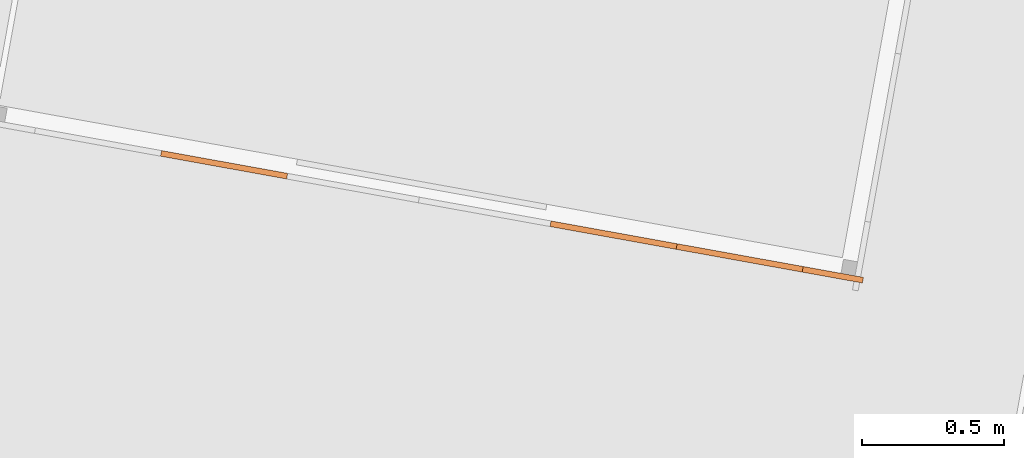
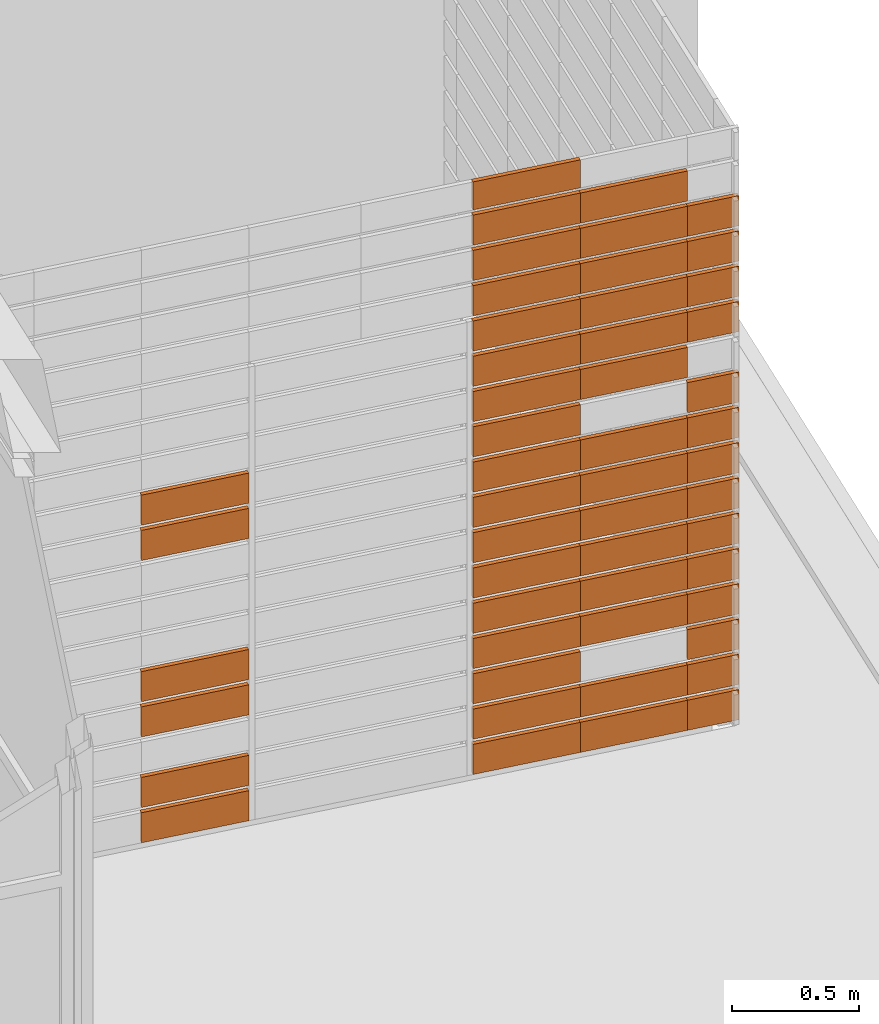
# One storey, part 29 of 52: 51 proxies, 1 element without a shape of its own.
"""IFC2X3 building model written with IfcOpenShell, lengths in metres."""

from ifc_helpers import new_model, entity, si_unit, converted_unit, derived_unit, money_unit, direction, frame, origin_with_axes, place, context, subcontext, project, spatial, polyline, outline, extrude, material, type_object, element, aggregate, save


model = new_model("IFC2X3")

# Units and contexts
model_context = context("Model", 3, precision=1e-05, world=origin_with_axes(), true_north=direction((0.0, 1.0)))
body_context = subcontext(model_context, "Body", "Model", "MODEL_VIEW")
ifc_project = project(units=[si_unit("LENGTHUNIT", "METRE"), si_unit("AREAUNIT", "SQUARE_METRE"), si_unit("VOLUMEUNIT", "CUBIC_METRE"), converted_unit("PLANEANGLEUNIT", "DEGREE", entity("IfcPlaneAngleMeasure", 0.0174532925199), si_unit("PLANEANGLEUNIT", "RADIAN"), dimensions=[0, 0, 0, 0, 0, 0, 0]), money_unit("CHF"), converted_unit("TIMEUNIT", "Year", entity("IfcTimeMeasure", 31556926.0), si_unit("TIMEUNIT", "SECOND"), dimensions=[0, 0, 1, 0, 0, 0, 0]), si_unit("MASSUNIT", "GRAM", prefix="KILO"), si_unit("THERMODYNAMICTEMPERATUREUNIT", "DEGREE_CELSIUS"), si_unit("LUMINOUSINTENSITYUNIT", "LUMEN"), si_unit("ENERGYUNIT", "JOULE", prefix="MEGA"), derived_unit("THERMALCONDUCTANCEUNIT", [(si_unit("POWERUNIT", "WATT"), 1), (si_unit("LENGTHUNIT", "METRE"), -1), (si_unit("THERMODYNAMICTEMPERATUREUNIT", "KELVIN"), -1)]), derived_unit("SPECIFICHEATCAPACITYUNIT", [(si_unit("ENERGYUNIT", "JOULE"), 1), (si_unit("MASSUNIT", "GRAM", prefix="KILO"), -1), (si_unit("THERMODYNAMICTEMPERATUREUNIT", "KELVIN"), -1)]), derived_unit("MASSDENSITYUNIT", [(si_unit("MASSUNIT", "GRAM", prefix="KILO"), 1), (si_unit("VOLUMEUNIT", "CUBIC_METRE"), -1)])], contexts=[model_context])

# Site, building, storey
site_placement = place(None, frame((0.0, 0.0, 0.0), z_axis=(0.0, 0.0, 1.0), x_axis=(-0.177771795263, -0.984071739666, 0.0)))
site = spatial("IfcSite", under=ifc_project, at=site_placement, Name="Site", CompositionType="ELEMENT")
building_placement = place(site_placement, origin_with_axes())
building = spatial("IfcBuilding", under=site, at=building_placement, Name="Bâtiment", CompositionType="ELEMENT")
storey_placement = place(building_placement, frame((0.0, 0.0, 3.2), z_axis=(0.0, 0.0, 1.0), x_axis=(1.0, 0.0, 0.0)))
storey = spatial("IfcBuildingStorey", under=building, at=storey_placement, Name="R+1", CompositionType="ELEMENT", Elevation=3.2)

# Curtain wall, proxies
curtain_wall_type = type_object("IfcCurtainWallType", Name="Type de mur-rideau", PredefinedType="NOTDEFINED")
curtain_wall_placement = place(storey_placement, frame((0.0, 0.0, -3.2), z_axis=(0.0, 0.0, 1.0), x_axis=(1.0, 0.0, 0.0)))
curtain_wall = element("IfcCurtainWall", 1, at=curtain_wall_placement, inside=storey, type_object=curtain_wall_type, Name="pare-vue CTA")
ifc_material = material(Name="Matériau de construction IFC")
building_element_proxy_type_1 = type_object("IfcBuildingElementProxyType", Name="Panneau principal 450 x 170 x 20", PredefinedType="NOTDEFINED")
proxy_1_placement = place(curtain_wall_placement, frame((141.359841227, -150.042034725, 5.3375), z_axis=(0.0, 0.0, 1.0), x_axis=(-4.03765126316e-09, 1.0, 0.0)))
proxy_1 = element("IfcBuildingElementProxy", 2, at=proxy_1_placement, type_object=building_element_proxy_type_1, material=ifc_material, Name="Panel-Main-208", context=body_context, shape_type="SweptSolid", body=[
    extrude(outline(polyline([(-0.225, -0.0725), (0.225, -0.0725), (0.225, 0.0725000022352), (-0.225, 0.0725000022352), (-0.225, -0.0725)])), frame((0.0, -0.00999999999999, 0.0), z_axis=(0.0, 1.0, 0.0), x_axis=(1.0, 0.0, 0.0)), (0.0, 0.0, 1.0), 0.02),
])
proxy_2_placement = place(curtain_wall_placement, frame((141.359841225, -149.592034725, 5.1675), z_axis=(0.0, 0.0, 1.0), x_axis=(-4.03758798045e-09, 1.0, 0.0)))
proxy_2 = element("IfcBuildingElementProxy", 3, at=proxy_2_placement, type_object=building_element_proxy_type_1, material=ifc_material, Name="Panel-Main-208", context=body_context, shape_type="SweptSolid", body=[
    extrude(outline(polyline([(-0.225, -0.0725), (0.225, -0.0725), (0.225, 0.0725000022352), (-0.225, 0.0725000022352), (-0.225, -0.0725)])), frame((0.0, -0.00999999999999, 0.0), z_axis=(0.0, 1.0, 0.0), x_axis=(1.0, 0.0, 0.0)), (0.0, 0.0, 1.0), 0.02),
])
proxy_3_placement = place(curtain_wall_placement, frame((141.359841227, -150.042034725, 4.6575), z_axis=(0.0, 0.0, 1.0), x_axis=(-4.03765126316e-09, 1.0, 0.0)))
proxy_3 = element("IfcBuildingElementProxy", 4, at=proxy_3_placement, type_object=building_element_proxy_type_1, material=ifc_material, Name="Panel-Main-208", context=body_context, shape_type="SweptSolid", body=[
    extrude(outline(polyline([(-0.225, -0.0725), (0.225, -0.0725), (0.225, 0.0725000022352), (-0.225, 0.0725000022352), (-0.225, -0.0725)])), frame((0.0, -0.00999999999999, 0.0), z_axis=(0.0, 1.0, 0.0), x_axis=(1.0, 0.0, 0.0)), (0.0, 0.0, 1.0), 0.02),
])
proxy_4_placement = place(curtain_wall_placement, frame((141.359841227, -150.042034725, 5.5075), z_axis=(0.0, 0.0, 1.0), x_axis=(-4.03765126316e-09, 1.0, 0.0)))
proxy_4 = element("IfcBuildingElementProxy", 5, at=proxy_4_placement, type_object=building_element_proxy_type_1, material=ifc_material, Name="Panel-Main-208", context=body_context, shape_type="SweptSolid", body=[
    extrude(outline(polyline([(-0.225, -0.0725), (0.225, -0.0725), (0.225, 0.0725000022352), (-0.225, 0.0725000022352), (-0.225, -0.0725)])), frame((0.0, -0.00999999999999, 0.0), z_axis=(0.0, 1.0, 0.0), x_axis=(1.0, 0.0, 0.0)), (0.0, 0.0, 1.0), 0.02),
])
proxy_5_placement = place(curtain_wall_placement, frame((141.359841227, -150.042034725, 4.9975), z_axis=(0.0, 0.0, 1.0), x_axis=(-4.03765126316e-09, 1.0, 0.0)))
proxy_5 = element("IfcBuildingElementProxy", 6, at=proxy_5_placement, type_object=building_element_proxy_type_1, material=ifc_material, Name="Panel-Main-208", context=body_context, shape_type="SweptSolid", body=[
    extrude(outline(polyline([(-0.225, -0.0725), (0.225, -0.0725), (0.225, 0.0725000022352), (-0.225, 0.0725000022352), (-0.225, -0.0725)])), frame((0.0, -0.00999999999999, 0.0), z_axis=(0.0, 1.0, 0.0), x_axis=(1.0, 0.0, 0.0)), (0.0, 0.0, 1.0), 0.02),
])
proxy_6_placement = place(curtain_wall_placement, frame((141.359841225, -149.592034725, 5.8475), z_axis=(0.0, 0.0, 1.0), x_axis=(-4.03758798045e-09, 1.0, 0.0)))
proxy_6 = element("IfcBuildingElementProxy", 7, at=proxy_6_placement, type_object=building_element_proxy_type_1, material=ifc_material, Name="Panel-Main-208", context=body_context, shape_type="SweptSolid", body=[
    extrude(outline(polyline([(-0.225, -0.0725), (0.225, -0.0725), (0.225, 0.0725000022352), (-0.225, 0.0725000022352), (-0.225, -0.0725)])), frame((0.0, -0.00999999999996, 0.0), z_axis=(0.0, 1.0, 0.0), x_axis=(1.0, 0.0, 0.0)), (0.0, 0.0, 1.0), 0.02),
])
proxy_7_placement = place(curtain_wall_placement, frame((141.359841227, -150.042034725, 3.2975), z_axis=(0.0, 0.0, 1.0), x_axis=(-4.03765126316e-09, 1.0, 0.0)))
proxy_7 = element("IfcBuildingElementProxy", 8, at=proxy_7_placement, type_object=building_element_proxy_type_1, material=ifc_material, Name="Panel-Main-208", context=body_context, shape_type="SweptSolid", body=[
    extrude(outline(polyline([(-0.225, -0.0725), (0.225, -0.0725), (0.225, 0.0725000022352), (-0.225, 0.0725000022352), (-0.225, -0.0725)])), frame((0.0, -0.00999999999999, 0.0), z_axis=(0.0, 1.0, 0.0), x_axis=(1.0, 0.0, 0.0)), (0.0, 0.0, 1.0), 0.02),
])
proxy_8_placement = place(curtain_wall_placement, frame((141.359841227, -150.042034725, 5.6775), z_axis=(0.0, 0.0, 1.0), x_axis=(-4.03765126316e-09, 1.0, 0.0)))
proxy_8 = element("IfcBuildingElementProxy", 9, at=proxy_8_placement, type_object=building_element_proxy_type_1, material=ifc_material, Name="Panel-Main-208", context=body_context, shape_type="SweptSolid", body=[
    extrude(outline(polyline([(-0.225, -0.0725), (0.225, -0.0725), (0.225, 0.0725000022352), (-0.225, 0.0725000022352), (-0.225, -0.0725)])), frame((0.0, -0.00999999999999, 0.0), z_axis=(0.0, 1.0, 0.0), x_axis=(1.0, 0.0, 0.0)), (0.0, 0.0, 1.0), 0.02),
])
proxy_9_placement = place(curtain_wall_placement, frame((141.359841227, -150.042034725, 5.1675), z_axis=(0.0, 0.0, 1.0), x_axis=(-4.03765126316e-09, 1.0, 0.0)))
proxy_9 = element("IfcBuildingElementProxy", 10, at=proxy_9_placement, type_object=building_element_proxy_type_1, material=ifc_material, Name="Panel-Main-208", context=body_context, shape_type="SweptSolid", body=[
    extrude(outline(polyline([(-0.225, -0.0725), (0.225, -0.0725), (0.225, 0.0725000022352), (-0.225, 0.0725000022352), (-0.225, -0.0725)])), frame((0.0, -0.00999999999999, 0.0), z_axis=(0.0, 1.0, 0.0), x_axis=(1.0, 0.0, 0.0)), (0.0, 0.0, 1.0), 0.02),
])
proxy_10_placement = place(curtain_wall_placement, frame((141.359841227, -150.042034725, 4.4875), z_axis=(0.0, 0.0, 1.0), x_axis=(-4.03765126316e-09, 1.0, 0.0)))
proxy_10 = element("IfcBuildingElementProxy", 11, at=proxy_10_placement, type_object=building_element_proxy_type_1, material=ifc_material, Name="Panel-Main-208", context=body_context, shape_type="SweptSolid", body=[
    extrude(outline(polyline([(-0.225, -0.0725), (0.225, -0.0725), (0.225, 0.0725000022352), (-0.225, 0.0725000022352), (-0.225, -0.0725)])), frame((0.0, -0.00999999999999, 0.0), z_axis=(0.0, 1.0, 0.0), x_axis=(1.0, 0.0, 0.0)), (0.0, 0.0, 1.0), 0.02),
])
proxy_11_placement = place(curtain_wall_placement, frame((141.359841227, -150.042034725, 3.9775), z_axis=(0.0, 0.0, 1.0), x_axis=(-4.03765126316e-09, 1.0, 0.0)))
proxy_11 = element("IfcBuildingElementProxy", 12, at=proxy_11_placement, type_object=building_element_proxy_type_1, material=ifc_material, Name="Panel-Main-208", context=body_context, shape_type="SweptSolid", body=[
    extrude(outline(polyline([(-0.225, -0.0725), (0.225, -0.0725), (0.225, 0.0725000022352), (-0.225, 0.0725000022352), (-0.225, -0.0725)])), frame((0.0, -0.00999999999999, 0.0), z_axis=(0.0, 1.0, 0.0), x_axis=(1.0, 0.0, 0.0)), (0.0, 0.0, 1.0), 0.02),
])
proxy_12_placement = place(curtain_wall_placement, frame((141.359841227, -150.042034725, 3.6375), z_axis=(0.0, 0.0, 1.0), x_axis=(-4.03765126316e-09, 1.0, 0.0)))
proxy_12 = element("IfcBuildingElementProxy", 13, at=proxy_12_placement, type_object=building_element_proxy_type_1, material=ifc_material, Name="Panel-Main-208", context=body_context, shape_type="SweptSolid", body=[
    extrude(outline(polyline([(-0.225, -0.0725), (0.225, -0.0725), (0.225, 0.0725000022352), (-0.225, 0.0725000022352), (-0.225, -0.0725)])), frame((0.0, -0.00999999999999, 0.0), z_axis=(0.0, 1.0, 0.0), x_axis=(1.0, 0.0, 0.0)), (0.0, 0.0, 1.0), 0.02),
])
proxy_13_placement = place(curtain_wall_placement, frame((141.359841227, -150.042034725, 3.8075), z_axis=(0.0, 0.0, 1.0), x_axis=(-4.03765126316e-09, 1.0, 0.0)))
proxy_13 = element("IfcBuildingElementProxy", 14, at=proxy_13_placement, type_object=building_element_proxy_type_1, material=ifc_material, Name="Panel-Main-208", context=body_context, shape_type="SweptSolid", body=[
    extrude(outline(polyline([(-0.225, -0.0725), (0.225, -0.0725), (0.225, 0.0725000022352), (-0.225, 0.0725000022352), (-0.225, -0.0725)])), frame((0.0, -0.00999999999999, 0.0), z_axis=(0.0, 1.0, 0.0), x_axis=(1.0, 0.0, 0.0)), (0.0, 0.0, 1.0), 0.02),
])
proxy_14_placement = place(curtain_wall_placement, frame((141.359841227, -150.042034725, 4.1475), z_axis=(0.0, 0.0, 1.0), x_axis=(-4.03765126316e-09, 1.0, 0.0)))
proxy_14 = element("IfcBuildingElementProxy", 15, at=proxy_14_placement, type_object=building_element_proxy_type_1, material=ifc_material, Name="Panel-Main-208", context=body_context, shape_type="SweptSolid", body=[
    extrude(outline(polyline([(-0.225, -0.0725), (0.225, -0.0725), (0.225, 0.0725000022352), (-0.225, 0.0725000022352), (-0.225, -0.0725)])), frame((0.0, -0.00999999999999, 0.0), z_axis=(0.0, 1.0, 0.0), x_axis=(1.0, 0.0, 0.0)), (0.0, 0.0, 1.0), 0.02),
])
proxy_15_placement = place(curtain_wall_placement, frame((141.359841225, -149.592034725, 4.9975), z_axis=(0.0, 0.0, 1.0), x_axis=(-4.03758798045e-09, 1.0, 0.0)))
proxy_15 = element("IfcBuildingElementProxy", 16, at=proxy_15_placement, type_object=building_element_proxy_type_1, material=ifc_material, Name="Panel-Main-208", context=body_context, shape_type="SweptSolid", body=[
    extrude(outline(polyline([(-0.225, -0.0725), (0.225, -0.0725), (0.225, 0.0725000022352), (-0.225, 0.0725000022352), (-0.225, -0.0725)])), frame((0.0, -0.00999999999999, 0.0), z_axis=(0.0, 1.0, 0.0), x_axis=(1.0, 0.0, 0.0)), (0.0, 0.0, 1.0), 0.02),
])
proxy_16_placement = place(curtain_wall_placement, frame((141.359841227, -150.042034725, 5.8475), z_axis=(0.0, 0.0, 1.0), x_axis=(-4.03765126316e-09, 1.0, 0.0)))
proxy_16 = element("IfcBuildingElementProxy", 17, at=proxy_16_placement, type_object=building_element_proxy_type_1, material=ifc_material, Name="Panel-Main-208", context=body_context, shape_type="SweptSolid", body=[
    extrude(outline(polyline([(-0.225, -0.0725), (0.225, -0.0725), (0.225, 0.0725000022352), (-0.225, 0.0725000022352), (-0.225, -0.0725)])), frame((0.0, -0.00999999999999, 0.0), z_axis=(0.0, 1.0, 0.0), x_axis=(1.0, 0.0, 0.0)), (0.0, 0.0, 1.0), 0.02),
])
proxy_17_placement = place(curtain_wall_placement, frame((141.359841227, -150.042034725, 4.8275), z_axis=(0.0, 0.0, 1.0), x_axis=(-4.03765126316e-09, 1.0, 0.0)))
proxy_17 = element("IfcBuildingElementProxy", 18, at=proxy_17_placement, type_object=building_element_proxy_type_1, material=ifc_material, Name="Panel-Main-208", context=body_context, shape_type="SweptSolid", body=[
    extrude(outline(polyline([(-0.225, -0.0725), (0.225, -0.0725), (0.225, 0.0725000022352), (-0.225, 0.0725000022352), (-0.225, -0.0725)])), frame((0.0, -0.00999999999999, 0.0), z_axis=(0.0, 1.0, 0.0), x_axis=(1.0, 0.0, 0.0)), (0.0, 0.0, 1.0), 0.02),
])
proxy_18_placement = place(curtain_wall_placement, frame((141.359841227, -150.042034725, 3.4675), z_axis=(0.0, 0.0, 1.0), x_axis=(-4.03765126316e-09, 1.0, 0.0)))
proxy_18 = element("IfcBuildingElementProxy", 19, at=proxy_18_placement, type_object=building_element_proxy_type_1, material=ifc_material, Name="Panel-Main-208", context=body_context, shape_type="SweptSolid", body=[
    extrude(outline(polyline([(-0.225, -0.0725), (0.225, -0.0725), (0.225, 0.0725000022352), (-0.225, 0.0725000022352), (-0.225, -0.0725)])), frame((0.0, -0.00999999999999, 0.0), z_axis=(0.0, 1.0, 0.0), x_axis=(1.0, 0.0, 0.0)), (0.0, 0.0, 1.0), 0.02),
])
proxy_19_placement = place(curtain_wall_placement, frame((141.359841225, -149.592034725, 3.8075), z_axis=(0.0, 0.0, 1.0), x_axis=(-4.03758798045e-09, 1.0, 0.0)))
proxy_19 = element("IfcBuildingElementProxy", 20, at=proxy_19_placement, type_object=building_element_proxy_type_1, material=ifc_material, Name="Panel-Main-208", context=body_context, shape_type="SweptSolid", body=[
    extrude(outline(polyline([(-0.225, -0.0725), (0.225, -0.0725), (0.225, 0.0725000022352), (-0.225, 0.0725000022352), (-0.225, -0.0725)])), frame((0.0, -0.00999999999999, 0.0), z_axis=(0.0, 1.0, 0.0), x_axis=(1.0, 0.0, 0.0)), (0.0, 0.0, 1.0), 0.02),
])
proxy_20_placement = place(curtain_wall_placement, frame((141.359841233, -151.432034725, 3.2975), z_axis=(0.0, 0.0, 1.0), x_axis=(-4.03758798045e-09, 1.0, 0.0)))
proxy_20 = element("IfcBuildingElementProxy", 21, at=proxy_20_placement, type_object=building_element_proxy_type_1, material=ifc_material, Name="Panel-Main-208", context=body_context, shape_type="SweptSolid", body=[
    extrude(outline(polyline([(-0.225, -0.0725), (0.225, -0.0725), (0.225, 0.0725000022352), (-0.225, 0.0725000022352), (-0.225, -0.0725)])), frame((0.0, -0.01, 0.0), z_axis=(0.0, 1.0, 0.0), x_axis=(1.0, 0.0, 0.0)), (0.0, 0.0, 1.0), 0.02),
])
proxy_21_placement = place(curtain_wall_placement, frame((141.359841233, -151.432034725, 4.6575), z_axis=(0.0, 0.0, 1.0), x_axis=(-4.03758798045e-09, 1.0, 0.0)))
proxy_21 = element("IfcBuildingElementProxy", 22, at=proxy_21_placement, type_object=building_element_proxy_type_1, material=ifc_material, Name="Panel-Main-208", context=body_context, shape_type="SweptSolid", body=[
    extrude(outline(polyline([(-0.225, -0.0725), (0.225, -0.0725), (0.225, 0.0725000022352), (-0.225, 0.0725000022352), (-0.225, -0.0725)])), frame((0.0, -0.01, 0.0), z_axis=(0.0, 1.0, 0.0), x_axis=(1.0, 0.0, 0.0)), (0.0, 0.0, 1.0), 0.02),
])
proxy_22_placement = place(curtain_wall_placement, frame((141.359841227, -150.042034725, 4.3175), z_axis=(0.0, 0.0, 1.0), x_axis=(-4.03765126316e-09, 1.0, 0.0)))
proxy_22 = element("IfcBuildingElementProxy", 23, at=proxy_22_placement, type_object=building_element_proxy_type_1, material=ifc_material, Name="Panel-Main-208", context=body_context, shape_type="SweptSolid", body=[
    extrude(outline(polyline([(-0.225, -0.0725), (0.225, -0.0725), (0.225, 0.0725000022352), (-0.225, 0.0725000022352), (-0.225, -0.0725)])), frame((0.0, -0.00999999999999, 0.0), z_axis=(0.0, 1.0, 0.0), x_axis=(1.0, 0.0, 0.0)), (0.0, 0.0, 1.0), 0.02),
])
proxy_23_placement = place(curtain_wall_placement, frame((141.359841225, -149.592034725, 4.6575), z_axis=(0.0, 0.0, 1.0), x_axis=(-4.03758798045e-09, 1.0, 0.0)))
proxy_23 = element("IfcBuildingElementProxy", 24, at=proxy_23_placement, type_object=building_element_proxy_type_1, material=ifc_material, Name="Panel-Main-208", context=body_context, shape_type="SweptSolid", body=[
    extrude(outline(polyline([(-0.225, -0.0725), (0.225, -0.0725), (0.225, 0.0725000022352), (-0.225, 0.0725000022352), (-0.225, -0.0725)])), frame((0.0, -0.00999999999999, 0.0), z_axis=(0.0, 1.0, 0.0), x_axis=(1.0, 0.0, 0.0)), (0.0, 0.0, 1.0), 0.02),
])
proxy_24_placement = place(curtain_wall_placement, frame((141.359841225, -149.592034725, 4.4875), z_axis=(0.0, 0.0, 1.0), x_axis=(-4.03758798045e-09, 1.0, 0.0)))
proxy_24 = element("IfcBuildingElementProxy", 25, at=proxy_24_placement, type_object=building_element_proxy_type_1, material=ifc_material, Name="Panel-Main-208", context=body_context, shape_type="SweptSolid", body=[
    extrude(outline(polyline([(-0.225, -0.0725), (0.225, -0.0725), (0.225, 0.0725000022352), (-0.225, 0.0725000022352), (-0.225, -0.0725)])), frame((0.0, -0.00999999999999, 0.0), z_axis=(0.0, 1.0, 0.0), x_axis=(1.0, 0.0, 0.0)), (0.0, 0.0, 1.0), 0.02),
])
proxy_25_placement = place(curtain_wall_placement, frame((141.359841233, -151.432034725, 3.4675), z_axis=(0.0, 0.0, 1.0), x_axis=(-4.03758798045e-09, 1.0, 0.0)))
proxy_25 = element("IfcBuildingElementProxy", 26, at=proxy_25_placement, type_object=building_element_proxy_type_1, material=ifc_material, Name="Panel-Main-208", context=body_context, shape_type="SweptSolid", body=[
    extrude(outline(polyline([(-0.225, -0.0725), (0.225, -0.0725), (0.225, 0.0725000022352), (-0.225, 0.0725000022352), (-0.225, -0.0725)])), frame((0.0, -0.01, 0.0), z_axis=(0.0, 1.0, 0.0), x_axis=(1.0, 0.0, 0.0)), (0.0, 0.0, 1.0), 0.02),
])
proxy_26_placement = place(curtain_wall_placement, frame((141.359841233, -151.432034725, 3.8075), z_axis=(0.0, 0.0, 1.0), x_axis=(-4.03758798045e-09, 1.0, 0.0)))
proxy_26 = element("IfcBuildingElementProxy", 27, at=proxy_26_placement, type_object=building_element_proxy_type_1, material=ifc_material, Name="Panel-Main-208", context=body_context, shape_type="SweptSolid", body=[
    extrude(outline(polyline([(-0.225, -0.0725), (0.225, -0.0725), (0.225, 0.0725000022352), (-0.225, 0.0725000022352), (-0.225, -0.0725)])), frame((0.0, -0.01, 0.0), z_axis=(0.0, 1.0, 0.0), x_axis=(1.0, 0.0, 0.0)), (0.0, 0.0, 1.0), 0.02),
])
proxy_27_placement = place(curtain_wall_placement, frame((141.359841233, -151.432034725, 3.9775), z_axis=(0.0, 0.0, 1.0), x_axis=(-4.03758798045e-09, 1.0, 0.0)))
proxy_27 = element("IfcBuildingElementProxy", 28, at=proxy_27_placement, type_object=building_element_proxy_type_1, material=ifc_material, Name="Panel-Main-208", context=body_context, shape_type="SweptSolid", body=[
    extrude(outline(polyline([(-0.225, -0.0725), (0.225, -0.0725), (0.225, 0.0725000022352), (-0.225, 0.0725000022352), (-0.225, -0.0725)])), frame((0.0, -0.01, 0.0), z_axis=(0.0, 1.0, 0.0), x_axis=(1.0, 0.0, 0.0)), (0.0, 0.0, 1.0), 0.02),
])
proxy_28_placement = place(curtain_wall_placement, frame((141.359841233, -151.432034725, 4.8275), z_axis=(0.0, 0.0, 1.0), x_axis=(-4.03758798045e-09, 1.0, 0.0)))
proxy_28 = element("IfcBuildingElementProxy", 29, at=proxy_28_placement, type_object=building_element_proxy_type_1, material=ifc_material, Name="Panel-Main-208", context=body_context, shape_type="SweptSolid", body=[
    extrude(outline(polyline([(-0.225, -0.0725), (0.225, -0.0725), (0.225, 0.0725000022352), (-0.225, 0.0725000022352), (-0.225, -0.0725)])), frame((0.0, -0.01, 0.0), z_axis=(0.0, 1.0, 0.0), x_axis=(1.0, 0.0, 0.0)), (0.0, 0.0, 1.0), 0.02),
])
proxy_29_placement = place(curtain_wall_placement, frame((141.359841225, -149.592034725, 4.3175), z_axis=(0.0, 0.0, 1.0), x_axis=(-4.03758798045e-09, 1.0, 0.0)))
proxy_29 = element("IfcBuildingElementProxy", 30, at=proxy_29_placement, type_object=building_element_proxy_type_1, material=ifc_material, Name="Panel-Main-208", context=body_context, shape_type="SweptSolid", body=[
    extrude(outline(polyline([(-0.225, -0.0725), (0.225, -0.0725), (0.225, 0.0725000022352), (-0.225, 0.0725000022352), (-0.225, -0.0725)])), frame((0.0, -0.00999999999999, 0.0), z_axis=(0.0, 1.0, 0.0), x_axis=(1.0, 0.0, 0.0)), (0.0, 0.0, 1.0), 0.02),
])
proxy_30_placement = place(curtain_wall_placement, frame((141.359841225, -149.592034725, 3.4675), z_axis=(0.0, 0.0, 1.0), x_axis=(-4.03758798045e-09, 1.0, 0.0)))
proxy_30 = element("IfcBuildingElementProxy", 31, at=proxy_30_placement, type_object=building_element_proxy_type_1, material=ifc_material, Name="Panel-Main-208", context=body_context, shape_type="SweptSolid", body=[
    extrude(outline(polyline([(-0.225, -0.0725), (0.225, -0.0725), (0.225, 0.0725000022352), (-0.225, 0.0725000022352), (-0.225, -0.0725)])), frame((0.0, -0.00999999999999, 0.0), z_axis=(0.0, 1.0, 0.0), x_axis=(1.0, 0.0, 0.0)), (0.0, 0.0, 1.0), 0.02),
])
proxy_31_placement = place(curtain_wall_placement, frame((141.359841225, -149.592034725, 4.1475), z_axis=(0.0, 0.0, 1.0), x_axis=(-4.03758798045e-09, 1.0, 0.0)))
proxy_31 = element("IfcBuildingElementProxy", 32, at=proxy_31_placement, type_object=building_element_proxy_type_1, material=ifc_material, Name="Panel-Main-208", context=body_context, shape_type="SweptSolid", body=[
    extrude(outline(polyline([(-0.225, -0.0725), (0.225, -0.0725), (0.225, 0.0725000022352), (-0.225, 0.0725000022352), (-0.225, -0.0725)])), frame((0.0, -0.00999999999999, 0.0), z_axis=(0.0, 1.0, 0.0), x_axis=(1.0, 0.0, 0.0)), (0.0, 0.0, 1.0), 0.02),
])
proxy_32_placement = place(curtain_wall_placement, frame((141.359841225, -149.592034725, 5.5075), z_axis=(0.0, 0.0, 1.0), x_axis=(-4.03758798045e-09, 1.0, 0.0)))
proxy_32 = element("IfcBuildingElementProxy", 33, at=proxy_32_placement, type_object=building_element_proxy_type_1, material=ifc_material, Name="Panel-Main-208", context=body_context, shape_type="SweptSolid", body=[
    extrude(outline(polyline([(-0.225, -0.0725), (0.225, -0.0725), (0.225, 0.0725000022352), (-0.225, 0.0725000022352), (-0.225, -0.0725)])), frame((0.0, -0.00999999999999, 0.0), z_axis=(0.0, 1.0, 0.0), x_axis=(1.0, 0.0, 0.0)), (0.0, 0.0, 1.0), 0.02),
])
proxy_33_placement = place(curtain_wall_placement, frame((141.359841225, -149.592034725, 5.6775), z_axis=(0.0, 0.0, 1.0), x_axis=(-4.03758798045e-09, 1.0, 0.0)))
proxy_33 = element("IfcBuildingElementProxy", 34, at=proxy_33_placement, type_object=building_element_proxy_type_1, material=ifc_material, Name="Panel-Main-208", context=body_context, shape_type="SweptSolid", body=[
    extrude(outline(polyline([(-0.225, -0.0725), (0.225, -0.0725), (0.225, 0.0725000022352), (-0.225, 0.0725000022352), (-0.225, -0.0725)])), frame((0.0, -0.00999999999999, 0.0), z_axis=(0.0, 1.0, 0.0), x_axis=(1.0, 0.0, 0.0)), (0.0, 0.0, 1.0), 0.02),
])
proxy_34_placement = place(curtain_wall_placement, frame((141.359841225, -149.592034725, 3.2975), z_axis=(0.0, 0.0, 1.0), x_axis=(-4.03758798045e-09, 1.0, 0.0)))
proxy_34 = element("IfcBuildingElementProxy", 35, at=proxy_34_placement, type_object=building_element_proxy_type_1, material=ifc_material, Name="Panel-Main-208", context=body_context, shape_type="SweptSolid", body=[
    extrude(outline(polyline([(-0.225, -0.0725), (0.225, -0.0725), (0.225, 0.0725000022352), (-0.225, 0.0725000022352), (-0.225, -0.0725)])), frame((0.0, -0.00999999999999, 0.0), z_axis=(0.0, 1.0, 0.0), x_axis=(1.0, 0.0, 0.0)), (0.0, 0.0, 1.0), 0.02),
])
proxy_35_placement = place(curtain_wall_placement, frame((141.359841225, -149.592034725, 3.9775), z_axis=(0.0, 0.0, 1.0), x_axis=(-4.03758798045e-09, 1.0, 0.0)))
proxy_35 = element("IfcBuildingElementProxy", 36, at=proxy_35_placement, type_object=building_element_proxy_type_1, material=ifc_material, Name="Panel-Main-208", context=body_context, shape_type="SweptSolid", body=[
    extrude(outline(polyline([(-0.225, -0.0725), (0.225, -0.0725), (0.225, 0.0725000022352), (-0.225, 0.0725000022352), (-0.225, -0.0725)])), frame((0.0, -0.00999999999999, 0.0), z_axis=(0.0, 1.0, 0.0), x_axis=(1.0, 0.0, 0.0)), (0.0, 0.0, 1.0), 0.02),
])
proxy_36_placement = place(curtain_wall_placement, frame((141.359841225, -149.592034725, 5.3375), z_axis=(0.0, 0.0, 1.0), x_axis=(-4.03758798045e-09, 1.0, 0.0)))
proxy_36 = element("IfcBuildingElementProxy", 37, at=proxy_36_placement, type_object=building_element_proxy_type_1, material=ifc_material, Name="Panel-Main-208", context=body_context, shape_type="SweptSolid", body=[
    extrude(outline(polyline([(-0.225, -0.0725), (0.225, -0.0725), (0.225, 0.0725000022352), (-0.225, 0.0725000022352), (-0.225, -0.0725)])), frame((0.0, -0.00999999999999, 0.0), z_axis=(0.0, 1.0, 0.0), x_axis=(1.0, 0.0, 0.0)), (0.0, 0.0, 1.0), 0.02),
])
building_element_proxy_type_2 = type_object("IfcBuildingElementProxyType", Name="Panneau principal 215 x 170 x 20", PredefinedType="NOTDEFINED")
proxy_37_placement = place(curtain_wall_placement, frame((141.359841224, -149.259592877, 4.3175), z_axis=(0.0, 0.0, 1.0), x_axis=(-4.03763638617e-09, 1.0, 0.0)))
proxy_37 = element("IfcBuildingElementProxy", 38, at=proxy_37_placement, type_object=building_element_proxy_type_2, material=ifc_material, Name="Panel-Main-308", context=body_context, shape_type="SweptSolid", body=[
    extrude(outline(polyline([(-0.107441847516, -0.0724999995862), (0.107441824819, -0.0724999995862), (0.107441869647, 0.072499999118), (-0.107441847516, 0.072499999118), (-0.107441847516, -0.0724999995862)])), frame((0.0, -0.01, 0.0), z_axis=(0.0, 1.0, 0.0), x_axis=(1.0, 0.0, 0.0)), (0.0, 0.0, 1.0), 0.02),
])
proxy_38_placement = place(curtain_wall_placement, frame((141.359841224, -149.259592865, 3.9775), z_axis=(0.0, 0.0, 1.0), x_axis=(-4.03763638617e-09, 1.0, 0.0)))
proxy_38 = element("IfcBuildingElementProxy", 39, at=proxy_38_placement, type_object=building_element_proxy_type_2, material=ifc_material, Name="Panel-Main-306", context=body_context, shape_type="SweptSolid", body=[
    extrude(outline(polyline([(-0.107441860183, -0.0724999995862), (0.107441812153, -0.0724999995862), (0.107441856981, 0.072499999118), (-0.107441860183, 0.072499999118), (-0.107441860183, -0.0724999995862)])), frame((0.0, -0.01, 0.0), z_axis=(0.0, 1.0, 0.0), x_axis=(1.0, 0.0, 0.0)), (0.0, 0.0, 1.0), 0.02),
])
proxy_39_placement = place(curtain_wall_placement, frame((141.359841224, -149.25959289, 5.6775), z_axis=(0.0, 0.0, 1.0), x_axis=(-4.03763638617e-09, 1.0, 0.0)))
proxy_39 = element("IfcBuildingElementProxy", 40, at=proxy_39_placement, type_object=building_element_proxy_type_2, material=ifc_material, Name="Panel-Main-316", context=body_context, shape_type="SweptSolid", body=[
    extrude(outline(polyline([(-0.10744183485, -0.0724999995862), (0.107441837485, -0.0724999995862), (0.107441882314, 0.072499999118), (-0.10744183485, 0.072499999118), (-0.10744183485, -0.0724999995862)])), frame((0.0, -0.01, 0.0), z_axis=(0.0, 1.0, 0.0), x_axis=(1.0, 0.0, 0.0)), (0.0, 0.0, 1.0), 0.02),
])
proxy_40_placement = place(curtain_wall_placement, frame((141.359841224, -149.259592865, 3.4675), z_axis=(0.0, 0.0, 1.0), x_axis=(-4.03763638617e-09, 1.0, 0.0)))
proxy_40 = element("IfcBuildingElementProxy", 41, at=proxy_40_placement, type_object=building_element_proxy_type_2, material=ifc_material, Name="Panel-Main-303", context=body_context, shape_type="SweptSolid", body=[
    extrude(outline(polyline([(-0.107441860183, -0.0724999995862), (0.107441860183, -0.0724999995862), (0.107441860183, 0.072499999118), (-0.107441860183, 0.072499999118), (-0.107441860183, -0.0724999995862)])), frame((0.0, -0.01, 0.0), z_axis=(0.0, 1.0, 0.0), x_axis=(1.0, 0.0, 0.0)), (0.0, 0.0, 1.0), 0.02),
])
proxy_41_placement = place(curtain_wall_placement, frame((141.359841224, -149.25959289, 5.3375), z_axis=(0.0, 0.0, 1.0), x_axis=(-4.03763638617e-09, 1.0, 0.0)))
proxy_41 = element("IfcBuildingElementProxy", 42, at=proxy_41_placement, type_object=building_element_proxy_type_2, material=ifc_material, Name="Panel-Main-314", context=body_context, shape_type="SweptSolid", body=[
    extrude(outline(polyline([(-0.10744183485, -0.0724999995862), (0.107441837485, -0.0724999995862), (0.107441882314, 0.072499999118), (-0.10744183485, 0.072499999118), (-0.10744183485, -0.0724999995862)])), frame((0.0, -0.01, 0.0), z_axis=(0.0, 1.0, 0.0), x_axis=(1.0, 0.0, 0.0)), (0.0, 0.0, 1.0), 0.02),
])
proxy_42_placement = place(curtain_wall_placement, frame((141.359841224, -149.25959289, 4.4875), z_axis=(0.0, 0.0, 1.0), x_axis=(-4.03763638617e-09, 1.0, 0.0)))
proxy_42 = element("IfcBuildingElementProxy", 43, at=proxy_42_placement, type_object=building_element_proxy_type_2, material=ifc_material, Name="Panel-Main-309", context=body_context, shape_type="SweptSolid", body=[
    extrude(outline(polyline([(-0.10744183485, -0.0724999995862), (0.107441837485, -0.0724999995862), (0.107441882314, 0.072499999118), (-0.10744183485, 0.072499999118), (-0.10744183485, -0.0724999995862)])), frame((0.0, -0.01, 0.0), z_axis=(0.0, 1.0, 0.0), x_axis=(1.0, 0.0, 0.0)), (0.0, 0.0, 1.0), 0.02),
])
proxy_43_placement = place(curtain_wall_placement, frame((141.359841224, -149.25959289, 5.1675), z_axis=(0.0, 0.0, 1.0), x_axis=(-4.03763638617e-09, 1.0, 0.0)))
proxy_43 = element("IfcBuildingElementProxy", 44, at=proxy_43_placement, type_object=building_element_proxy_type_2, material=ifc_material, Name="Panel-Main-313", context=body_context, shape_type="SweptSolid", body=[
    extrude(outline(polyline([(-0.10744183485, -0.0724999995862), (0.107441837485, -0.0724999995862), (0.107441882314, 0.072499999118), (-0.10744183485, 0.072499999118), (-0.10744183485, -0.0724999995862)])), frame((0.0, -0.01, 0.0), z_axis=(0.0, 1.0, 0.0), x_axis=(1.0, 0.0, 0.0)), (0.0, 0.0, 1.0), 0.02),
])
proxy_44_placement = place(curtain_wall_placement, frame((141.359841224, -149.259592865, 3.2975), z_axis=(0.0, 0.0, 1.0), x_axis=(-4.03763638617e-09, 1.0, 0.0)))
proxy_44 = element("IfcBuildingElementProxy", 45, at=proxy_44_placement, type_object=building_element_proxy_type_2, material=ifc_material, Name="Panel-Main-302", context=body_context, shape_type="SweptSolid", body=[
    extrude(outline(polyline([(-0.107441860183, -0.0724999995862), (0.107441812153, -0.0724999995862), (0.107441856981, 0.072499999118), (-0.107441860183, 0.072499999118), (-0.107441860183, -0.0724999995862)])), frame((0.0, -0.01, 0.0), z_axis=(0.0, 1.0, 0.0), x_axis=(1.0, 0.0, 0.0)), (0.0, 0.0, 1.0), 0.02),
])
proxy_45_placement = place(curtain_wall_placement, frame((141.359841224, -149.259592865, 3.6375), z_axis=(0.0, 0.0, 1.0), x_axis=(-4.03763638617e-09, 1.0, 0.0)))
proxy_45 = element("IfcBuildingElementProxy", 46, at=proxy_45_placement, type_object=building_element_proxy_type_2, material=ifc_material, Name="Panel-Main-304", context=body_context, shape_type="SweptSolid", body=[
    extrude(outline(polyline([(-0.107441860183, -0.0724999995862), (0.107441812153, -0.0724999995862), (0.107441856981, 0.072499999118), (-0.107441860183, 0.072499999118), (-0.107441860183, -0.0724999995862)])), frame((0.0, -0.01, 0.0), z_axis=(0.0, 1.0, 0.0), x_axis=(1.0, 0.0, 0.0)), (0.0, 0.0, 1.0), 0.02),
])
proxy_46_placement = place(curtain_wall_placement, frame((141.359841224, -149.25959289, 4.8275), z_axis=(0.0, 0.0, 1.0), x_axis=(-4.03763638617e-09, 1.0, 0.0)))
proxy_46 = element("IfcBuildingElementProxy", 47, at=proxy_46_placement, type_object=building_element_proxy_type_2, material=ifc_material, Name="Panel-Main-311", context=body_context, shape_type="SweptSolid", body=[
    extrude(outline(polyline([(-0.10744183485, -0.0724999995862), (0.107441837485, -0.0724999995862), (0.107441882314, 0.072499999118), (-0.10744183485, 0.072499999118), (-0.10744183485, -0.0724999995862)])), frame((0.0, -0.01, 0.0), z_axis=(0.0, 1.0, 0.0), x_axis=(1.0, 0.0, 0.0)), (0.0, 0.0, 1.0), 0.02),
])
proxy_47_placement = place(curtain_wall_placement, frame((141.359841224, -149.259592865, 3.8075), z_axis=(0.0, 0.0, 1.0), x_axis=(-4.03763638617e-09, 1.0, 0.0)))
proxy_47 = element("IfcBuildingElementProxy", 48, at=proxy_47_placement, type_object=building_element_proxy_type_2, material=ifc_material, Name="Panel-Main-305", context=body_context, shape_type="SweptSolid", body=[
    extrude(outline(polyline([(-0.107441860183, -0.0724999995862), (0.107441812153, -0.0724999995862), (0.107441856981, 0.072499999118), (-0.107441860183, 0.072499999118), (-0.107441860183, -0.0724999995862)])), frame((0.0, -0.01, 0.0), z_axis=(0.0, 1.0, 0.0), x_axis=(1.0, 0.0, 0.0)), (0.0, 0.0, 1.0), 0.02),
])
proxy_48_placement = place(curtain_wall_placement, frame((141.359841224, -149.259592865, 4.1475), z_axis=(0.0, 0.0, 1.0), x_axis=(-4.03763638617e-09, 1.0, 0.0)))
proxy_48 = element("IfcBuildingElementProxy", 49, at=proxy_48_placement, type_object=building_element_proxy_type_2, material=ifc_material, Name="Panel-Main-307", context=body_context, shape_type="SweptSolid", body=[
    extrude(outline(polyline([(-0.107441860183, -0.0724999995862), (0.107441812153, -0.0724999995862), (0.107441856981, 0.072499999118), (-0.107441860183, 0.072499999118), (-0.107441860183, -0.0724999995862)])), frame((0.0, -0.01, 0.0), z_axis=(0.0, 1.0, 0.0), x_axis=(1.0, 0.0, 0.0)), (0.0, 0.0, 1.0), 0.02),
])
proxy_49_placement = place(curtain_wall_placement, frame((141.359841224, -149.25959289, 5.5075), z_axis=(0.0, 0.0, 1.0), x_axis=(-4.03763638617e-09, 1.0, 0.0)))
proxy_49 = element("IfcBuildingElementProxy", 50, at=proxy_49_placement, type_object=building_element_proxy_type_2, material=ifc_material, Name="Panel-Main-315", context=body_context, shape_type="SweptSolid", body=[
    extrude(outline(polyline([(-0.10744183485, -0.0724999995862), (0.107441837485, -0.0724999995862), (0.107441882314, 0.072499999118), (-0.10744183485, 0.072499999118), (-0.10744183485, -0.0724999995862)])), frame((0.0, -0.01, 0.0), z_axis=(0.0, 1.0, 0.0), x_axis=(1.0, 0.0, 0.0)), (0.0, 0.0, 1.0), 0.02),
])
proxy_50_placement = place(curtain_wall_placement, frame((141.359841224, -149.25959289, 4.6575), z_axis=(0.0, 0.0, 1.0), x_axis=(-4.03763638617e-09, 1.0, 0.0)))
proxy_50 = element("IfcBuildingElementProxy", 51, at=proxy_50_placement, type_object=building_element_proxy_type_2, material=ifc_material, Name="Panel-Main-310", context=body_context, shape_type="SweptSolid", body=[
    extrude(outline(polyline([(-0.10744183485, -0.0724999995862), (0.107441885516, -0.0724999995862), (0.107441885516, 0.072499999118), (-0.10744183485, 0.072499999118), (-0.10744183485, -0.0724999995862)])), frame((0.0, -0.01, 0.0), z_axis=(0.0, 1.0, 0.0), x_axis=(1.0, 0.0, 0.0)), (0.0, 0.0, 1.0), 0.02),
])
building_element_proxy_type_3 = type_object("IfcBuildingElementProxyType", Name="Panneau principal 450 x 147 x 20", PredefinedType="NOTDEFINED")
proxy_51_placement = place(curtain_wall_placement, frame((141.359841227, -150.042034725, 6.0062499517), z_axis=(0.0, 0.0, 1.0), x_axis=(-4.03765126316e-09, 1.0, 0.0)))
proxy_51 = element("IfcBuildingElementProxy", 52, at=proxy_51_placement, type_object=building_element_proxy_type_3, material=ifc_material, Name="Panel-Main-793", context=body_context, shape_type="SweptSolid", body=[
    extrude(outline(polyline([(-0.225, -0.0737499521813), (0.225, -0.0737499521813), (0.225, 0.0612499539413), (-0.225, 0.0612499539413), (-0.225, -0.0737499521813)])), frame((0.0, -0.00999999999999, 0.0), z_axis=(0.0, 1.0, 0.0), x_axis=(1.0, 0.0, 0.0)), (0.0, 0.0, 1.0), 0.02),
])
aggregate(curtain_wall, [proxy_1, proxy_37, proxy_2, proxy_3, proxy_4, proxy_5, proxy_6, proxy_7, proxy_8, proxy_9, proxy_10, proxy_11, proxy_12, proxy_13, proxy_14, proxy_38, proxy_15, proxy_16, proxy_17, proxy_39, proxy_40, proxy_18, proxy_19, proxy_20, proxy_21, proxy_22, proxy_23, proxy_41, proxy_24, proxy_42, proxy_25, proxy_26, proxy_27, proxy_43, proxy_28, proxy_29, proxy_30, proxy_44, proxy_45, proxy_46, proxy_31, proxy_47, proxy_48, proxy_49, proxy_32, proxy_50, proxy_33, proxy_34, proxy_35, proxy_36, proxy_51])

save(model, "model.ifc")
